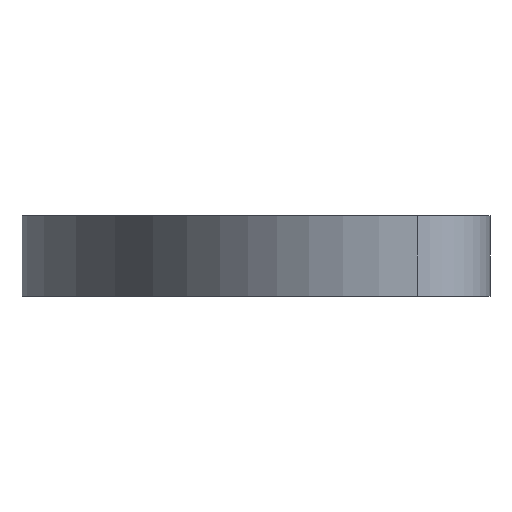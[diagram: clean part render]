
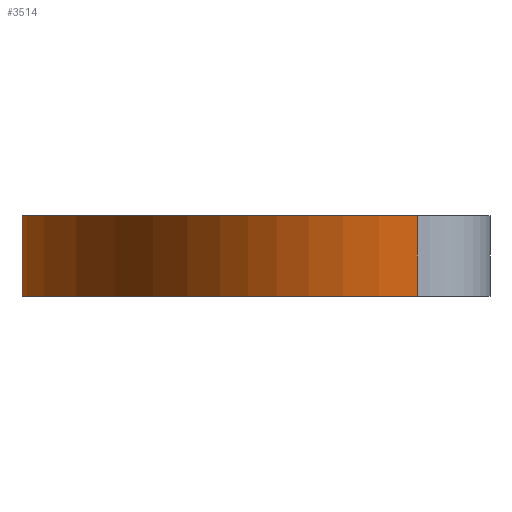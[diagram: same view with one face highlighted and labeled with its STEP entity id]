
A CAD part, left-side view. The second image highlights one B-rep face of the part: STEP entity #3514.
In plain terms, the highlighted free-form (B-spline) face has degree [1, 3] with [2, 22] control points.
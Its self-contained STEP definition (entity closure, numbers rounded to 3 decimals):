
#20=B_SPLINE_SURFACE_WITH_KNOTS('',1,3,((#6268,#6269,#6270,#6271,#6272,
#6273,#6274,#6275,#6276,#6277,#6278,#6279,#6280,#6281,#6282,#6283,#6284,
#6285,#6286,#6287,#6288,#6289),(#6290,#6291,#6292,#6293,#6294,#6295,#6296,
#6297,#6298,#6299,#6300,#6301,#6302,#6303,#6304,#6305,#6306,#6307,#6308,
#6309,#6310,#6311)),.SURF_OF_LINEAR_EXTRUSION.,.F.,.F.,.F.,(2,2),(4,2,2,
2,2,2,2,2,2,2,4),(0.,1.),(0.,0.063,0.125,0.188,0.25,0.375,0.5,0.625,0.75,
0.875,1.),.UNSPECIFIED.);
#151=B_SPLINE_CURVE_WITH_KNOTS('',3,(#5230,#5231,#5232,#5233),
 .UNSPECIFIED.,.F.,.F.,(4,4),(0.,1.),.PIECEWISE_BEZIER_KNOTS.);
#153=B_SPLINE_CURVE_WITH_KNOTS('',3,(#5499,#5500,#5501,#5502,#5503,#5504,
#5505,#5506,#5507,#5508,#5509,#5510,#5511,#5512,#5513,#5514,#5515,#5516,
#5517,#5518,#5519,#5520),.UNSPECIFIED.,.F.,.F.,(4,2,2,2,2,2,2,2,2,2,4),
(0.,0.063,0.125,0.188,0.25,0.375,0.5,0.625,0.75,0.875,1.),
 .UNSPECIFIED.);
#1374=ORIENTED_EDGE('',*,*,#1601,.T.);
#1375=ORIENTED_EDGE('',*,*,#1711,.F.);
#1376=ORIENTED_EDGE('',*,*,#1470,.F.);
#1377=ORIENTED_EDGE('',*,*,#1716,.T.);
#1470=EDGE_CURVE('',#1982,#1983,#151,.T.);
#1601=EDGE_CURVE('',#2113,#2114,#153,.T.);
#1711=EDGE_CURVE('',#1983,#2114,#2374,.F.);
#1716=EDGE_CURVE('',#1982,#2113,#2378,.F.);
#1982=VERTEX_POINT('',#5234);
#1983=VERTEX_POINT('',#5235);
#2113=VERTEX_POINT('',#5521);
#2114=VERTEX_POINT('',#5522);
#2374=LINE('',#5799,#2628);
#2378=LINE('',#5808,#2632);
#2628=VECTOR('',#4441,1000.);
#2632=VECTOR('',#4451,1000.);
#3022=EDGE_LOOP('',(#1374,#1375,#1376,#1377));
#3258=FACE_BOUND('',#3022,.T.);
#3514=ADVANCED_FACE('',(#3258),#20,.T.);
#4441=DIRECTION('',(0.,0.,-1.));
#4451=DIRECTION('',(0.,0.,-1.));
#5230=CARTESIAN_POINT('',(-27.6,0.,0.));
#5231=CARTESIAN_POINT('',(-27.6,14.55,0.));
#5232=CARTESIAN_POINT('',(-1.537,19.6,0.));
#5233=CARTESIAN_POINT('',(8.,19.6,0.));
#5234=CARTESIAN_POINT('',(-27.6,0.,0.));
#5235=CARTESIAN_POINT('',(8.,19.6,0.));
#5499=CARTESIAN_POINT('',(-27.6,0.,4.));
#5500=CARTESIAN_POINT('',(-27.6,0.909,4.));
#5501=CARTESIAN_POINT('',(-27.498,1.782,4.));
#5502=CARTESIAN_POINT('',(-27.112,3.454,4.));
#5503=CARTESIAN_POINT('',(-26.827,4.254,4.));
#5504=CARTESIAN_POINT('',(-26.096,5.785,4.));
#5505=CARTESIAN_POINT('',(-25.649,6.515,4.));
#5506=CARTESIAN_POINT('',(-24.615,7.908,4.));
#5507=CARTESIAN_POINT('',(-24.027,8.571,4.));
#5508=CARTESIAN_POINT('',(-22.082,10.461,4.));
#5509=CARTESIAN_POINT('',(-20.545,11.589,4.));
#5510=CARTESIAN_POINT('',(-17.156,13.602,4.));
#5511=CARTESIAN_POINT('',(-15.303,14.486,4.));
#5512=CARTESIAN_POINT('',(-11.45,16.027,4.));
#5513=CARTESIAN_POINT('',(-9.448,16.683,4.));
#5514=CARTESIAN_POINT('',(-5.462,17.787,4.));
#5515=CARTESIAN_POINT('',(-3.478,18.233,4.));
#5516=CARTESIAN_POINT('',(0.306,18.934,4.));
#5517=CARTESIAN_POINT('',(2.107,19.188,4.));
#5518=CARTESIAN_POINT('',(5.357,19.521,4.));
#5519=CARTESIAN_POINT('',(6.808,19.6,4.));
#5520=CARTESIAN_POINT('',(8.,19.6,4.));
#5521=CARTESIAN_POINT('',(-27.6,0.,4.));
#5522=CARTESIAN_POINT('',(8.,19.6,4.));
#5799=CARTESIAN_POINT('',(8.,19.6,4.));
#5808=CARTESIAN_POINT('',(-27.6,0.,4.));
#6268=CARTESIAN_POINT('',(-27.6,0.,0.));
#6269=CARTESIAN_POINT('',(-27.6,0.909,0.));
#6270=CARTESIAN_POINT('',(-27.498,1.782,0.));
#6271=CARTESIAN_POINT('',(-27.112,3.454,0.));
#6272=CARTESIAN_POINT('',(-26.827,4.254,0.));
#6273=CARTESIAN_POINT('',(-26.096,5.785,0.));
#6274=CARTESIAN_POINT('',(-25.649,6.515,0.));
#6275=CARTESIAN_POINT('',(-24.615,7.908,0.));
#6276=CARTESIAN_POINT('',(-24.027,8.571,0.));
#6277=CARTESIAN_POINT('',(-22.082,10.461,0.));
#6278=CARTESIAN_POINT('',(-20.545,11.589,0.));
#6279=CARTESIAN_POINT('',(-17.156,13.602,0.));
#6280=CARTESIAN_POINT('',(-15.303,14.486,0.));
#6281=CARTESIAN_POINT('',(-11.45,16.027,0.));
#6282=CARTESIAN_POINT('',(-9.448,16.683,0.));
#6283=CARTESIAN_POINT('',(-5.462,17.787,0.));
#6284=CARTESIAN_POINT('',(-3.478,18.233,0.));
#6285=CARTESIAN_POINT('',(0.306,18.934,0.));
#6286=CARTESIAN_POINT('',(2.107,19.188,0.));
#6287=CARTESIAN_POINT('',(5.357,19.521,0.));
#6288=CARTESIAN_POINT('',(6.808,19.6,0.));
#6289=CARTESIAN_POINT('',(8.,19.6,0.));
#6290=CARTESIAN_POINT('',(-27.6,0.,4.));
#6291=CARTESIAN_POINT('',(-27.6,0.909,4.));
#6292=CARTESIAN_POINT('',(-27.498,1.782,4.));
#6293=CARTESIAN_POINT('',(-27.112,3.454,4.));
#6294=CARTESIAN_POINT('',(-26.827,4.254,4.));
#6295=CARTESIAN_POINT('',(-26.096,5.785,4.));
#6296=CARTESIAN_POINT('',(-25.649,6.515,4.));
#6297=CARTESIAN_POINT('',(-24.615,7.908,4.));
#6298=CARTESIAN_POINT('',(-24.027,8.571,4.));
#6299=CARTESIAN_POINT('',(-22.082,10.461,4.));
#6300=CARTESIAN_POINT('',(-20.545,11.589,4.));
#6301=CARTESIAN_POINT('',(-17.156,13.602,4.));
#6302=CARTESIAN_POINT('',(-15.303,14.486,4.));
#6303=CARTESIAN_POINT('',(-11.45,16.027,4.));
#6304=CARTESIAN_POINT('',(-9.448,16.683,4.));
#6305=CARTESIAN_POINT('',(-5.462,17.787,4.));
#6306=CARTESIAN_POINT('',(-3.478,18.233,4.));
#6307=CARTESIAN_POINT('',(0.306,18.934,4.));
#6308=CARTESIAN_POINT('',(2.107,19.188,4.));
#6309=CARTESIAN_POINT('',(5.357,19.521,4.));
#6310=CARTESIAN_POINT('',(6.808,19.6,4.));
#6311=CARTESIAN_POINT('',(8.,19.6,4.));
